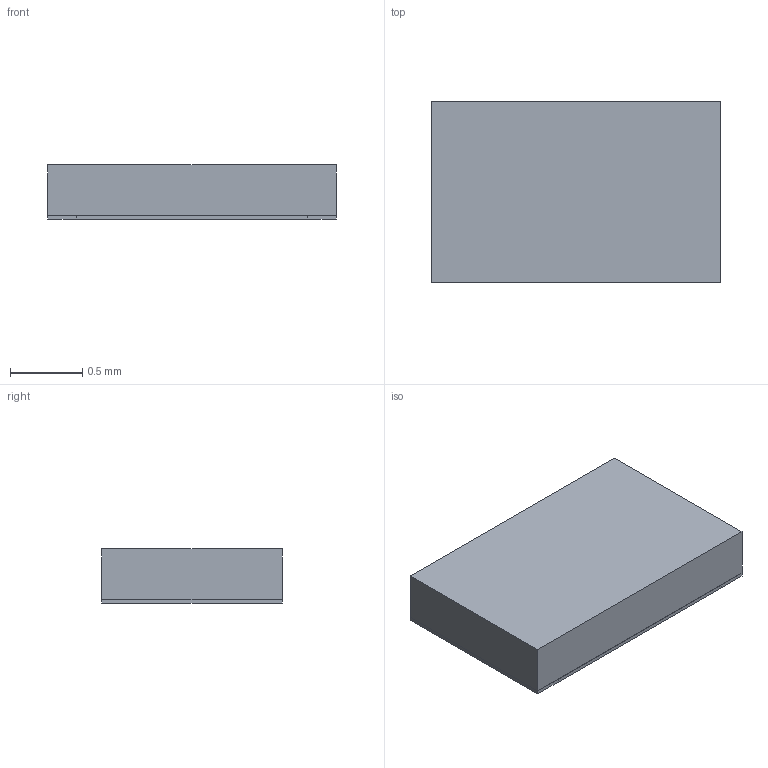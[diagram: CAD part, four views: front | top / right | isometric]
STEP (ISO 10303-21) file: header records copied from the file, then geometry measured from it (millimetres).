
FILE_DESCRIPTION(('STEP AP203'), '1');
FILE_NAME('栖闉罻', '', ('UNSPECIFIED'), ('UNSPECIFIED'), 'ASCON STEP Converter 1.6', 'ASCON Math Kernel', '');
FILE_SCHEMA(('CONFIG_CONTROL_DESIGN'));
Length unit declared in the file: millimetre
Assembly tree (1 placements, depth 2):
  (unnamed)
    (unnamed)
Bounding box: 2 x 1.25 x 0.38 mm (x, y, z)
Volume: 0.9 mm3; surface area: 12.7 mm2
Topology: 4 solids, 5 shells, 43 faces, 99 edges, 66 vertices
Faces by surface type: plane 39, cylinder 4
Entity records: 1659 total; most frequent: CARTESIAN_POINT 210, ORIENTED_EDGE 198, DIRECTION 197, EDGE_CURVE 99, LINE 91, VECTOR 91, VERTEX_POINT 66, AXIS2_PLACEMENT_3D 53
